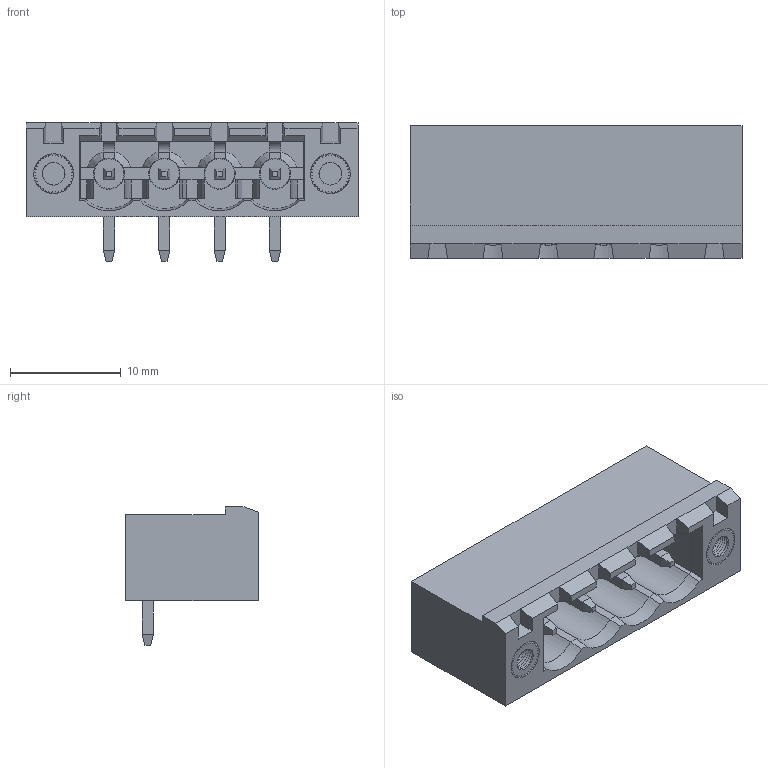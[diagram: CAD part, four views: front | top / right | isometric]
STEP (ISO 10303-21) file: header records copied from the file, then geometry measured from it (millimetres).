
FILE_DESCRIPTION(('Open CASCADE Model'),'2;1');
FILE_NAME('Open CASCADE Shape Model','2022-10-26T11:37:57',('Author'),( 'Open CASCADE'),'Open CASCADE STEP processor 6.5','Open CASCADE 6.5' ,'Unknown');
FILE_SCHEMA(('AUTOMOTIVE_DESIGN { 1 0 10303 214 1 1 1 1 }'));
Length unit declared in the file: millimetre
Products named in the file (622): CADSOFTTOOLS 2; CADSOFTTOOLS 2.1; CADSOFTTOOLS 2.2; CADSOFTTOOLS 2.3; CADSOFTTOOLS 2.4; CADSOFTTOOLS 2.5; CADSOFTTOOLS 2.6; CADSOFTTOOLS 2.7; CADSOFTTOOLS 2.8; CADSOFTTOOLS 2.9; CADSOFTTOOLS 2.10; CADSOFTTOOLS 2.11; CADSOFTTOOLS 2.12; CADSOFTTOOLS 2.13; CADSOFTTOOLS 2.14; CADSOFTTOOLS 2.15; CADSOFTTOOLS 2.16; CADSOFTTOOLS 2.17; CADSOFTTOOLS 2.18; CADSOFTTOOLS 2.19; CADSOFTTOOLS 2.20; CADSOFTTOOLS 2.21; CADSOFTTOOLS 2.22; CADSOFTTOOLS 2.23; CADSOFTTOOLS 2.24; CADSOFTTOOLS 2.25; CADSOFTTOOLS 2.26; CADSOFTTOOLS 2.27; CADSOFTTOOLS 2.28; CADSOFTTOOLS 2.29; CADSOFTTOOLS 2.30; CADSOFTTOOLS 2.31; CADSOFTTOOLS 2.32; CADSOFTTOOLS 2.33; CADSOFTTOOLS 2.34; CADSOFTTOOLS 2.35; CADSOFTTOOLS 2.36; CADSOFTTOOLS 2.37; CADSOFTTOOLS 2.38; CADSOFTTOOLS 2.39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
Assembly tree (621 placements, depth 2):
  CADSOFTTOOLS 2
    CADSOFTTOOLS 2.1
    CADSOFTTOOLS 2.2
    CADSOFTTOOLS 2.3
    CADSOFTTOOLS 2.4
    CADSOFTTOOLS 2.5
    CADSOFTTOOLS 2.6
    CADSOFTTOOLS 2.7
    CADSOFTTOOLS 2.8
    CADSOFTTOOLS 2.9
    CADSOFTTOOLS 2.10
    CADSOFTTOOLS 2.11
    CADSOFTTOOLS 2.12
    CADSOFTTOOLS 2.13
    CADSOFTTOOLS 2.14
    CADSOFTTOOLS 2.15
    CADSOFTTOOLS 2.16
    CADSOFTTOOLS 2.17
    CADSOFTTOOLS 2.18
    CADSOFTTOOLS 2.19
    CADSOFTTOOLS 2.20
    CADSOFTTOOLS 2.21
    CADSOFTTOOLS 2.22
    CADSOFTTOOLS 2.23
    CADSOFTTOOLS 2.24
    CADSOFTTOOLS 2.25
    CADSOFTTOOLS 2.26
    CADSOFTTOOLS 2.27
    CADSOFTTOOLS 2.28
    CADSOFTTOOLS 2.29
    CADSOFTTOOLS 2.30
    CADSOFTTOOLS 2.31
    CADSOFTTOOLS 2.32
    CADSOFTTOOLS 2.33
    CADSOFTTOOLS 2.34
    CADSOFTTOOLS 2.35
    CADSOFTTOOLS 2.36
    CADSOFTTOOLS 2.37
    CADSOFTTOOLS 2.38
    CADSOFTTOOLS 2.39
    CADSOFTTOOLS 2.40
    CADSOFTTOOLS 2.41
    CADSOFTTOOLS 2.42
    CADSOFTTOOLS 2.43
    CADSOFTTOOLS 2.44
    CADSOFTTOOLS 2.45
    CADSOFTTOOLS 2.46
    CADSOFTTOOLS 2.47
    CADSOFTTOOLS 2.48
    CADSOFTTOOLS 2.49
    CADSOFTTOOLS 2.50
    CADSOFTTOOLS 2.51
    CADSOFTTOOLS 2.52
    CADSOFTTOOLS 2.53
    CADSOFTTOOLS 2.54
    CADSOFTTOOLS 2.55
    CADSOFTTOOLS 2.56
    CADSOFTTOOLS 2.57
    CADSOFTTOOLS 2.58
    CADSOFTTOOLS 2.59
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Bounding box: 30 x 12 x 12.5 mm (x, y, z)
Surface area: 2827.6 mm2 (no closed solid volume)
Topology: 0 solids, 621 shells, 621 faces, 3954 edges, 3954 vertices
Faces by surface type: bspline 621
Entity records: 156355 total; most frequent: CARTESIAN_POINT 111085, B_SPLINE_CURVE_WITH_KNOTS 7204, ORIENTED_EDGE 3954, EDGE_CURVE 3954, VERTEX_POINT 3954, SURFACE_CURVE 3954, PCURVE 3954, DEFINITIONAL_REPRESENTATION 3954
